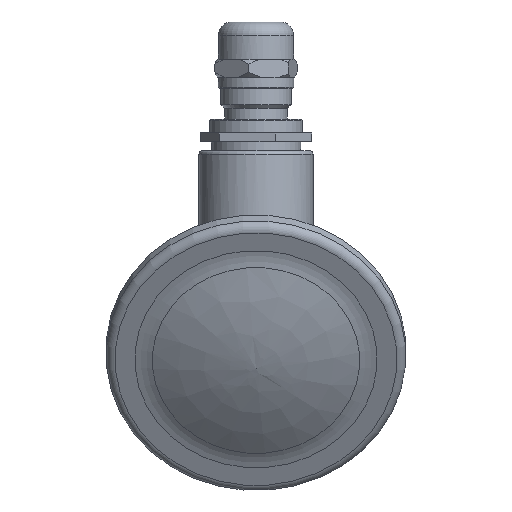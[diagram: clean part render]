
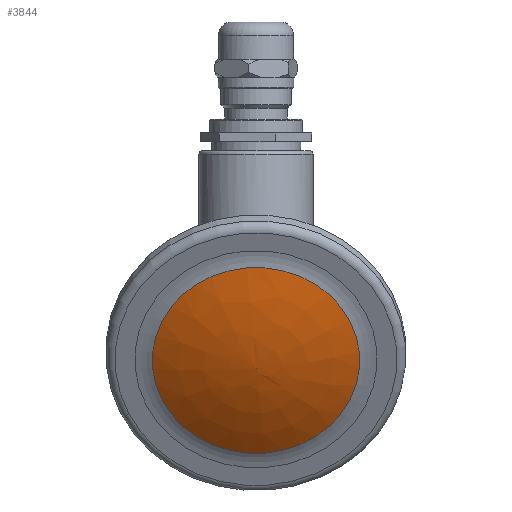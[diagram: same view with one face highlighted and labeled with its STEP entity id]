
A CAD part, left-side view. The second image highlights one B-rep face of the part: STEP entity #3844.
In plain terms, the highlighted free-form (B-spline) face has degree [3, 3] with [5, 19] control points.
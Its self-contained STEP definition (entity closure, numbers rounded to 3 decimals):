
#44=VERTEX_LOOP('',#1573);
#46=B_SPLINE_SURFACE_WITH_KNOTS('',3,3,((#6467,#6468,#6469,#6470,#6471,
#6472,#6473,#6474,#6475,#6476,#6477,#6478,#6479,#6480,#6481,#6482,#6483,
#6484,#6485),(#6486,#6487,#6488,#6489,#6490,#6491,#6492,#6493,#6494,#6495,
#6496,#6497,#6498,#6499,#6500,#6501,#6502,#6503,#6504),(#6505,#6506,#6507,
#6508,#6509,#6510,#6511,#6512,#6513,#6514,#6515,#6516,#6517,#6518,#6519,
#6520,#6521,#6522,#6523),(#6524,#6525,#6526,#6527,#6528,#6529,#6530,#6531,
#6532,#6533,#6534,#6535,#6536,#6537,#6538,#6539,#6540,#6541,#6542),(#6543,
#6544,#6545,#6546,#6547,#6548,#6549,#6550,#6551,#6552,#6553,#6554,#6555,
#6556,#6557,#6558,#6559,#6560,#6561)),.UNSPECIFIED.,.F.,.T.,.F.,(4,1,4),
(1,1,1,1,1,1,1,1,1,1,1,1,1,1,1,1,1,1,1,1,1,1,1),(0.,0.49,0.98),
(-1.178,-0.785,-0.393,0.,0.393,
0.785,1.178,1.571,1.963,2.356,
2.749,3.142,3.534,3.927,4.32,
4.712,5.105,5.498,5.89,6.283,
6.676,7.069,7.461),.UNSPECIFIED.);
#197=CIRCLE('',#4083,23.177);
#711=ORIENTED_EDGE('',*,*,#1269,.T.);
#1269=EDGE_CURVE('',#1574,#1574,#197,.T.);
#1573=VERTEX_POINT('',#6562);
#1574=VERTEX_POINT('',#6564);
#1975=EDGE_LOOP('',(#711));
#2233=FACE_BOUND('',#44,.T.);
#2234=FACE_BOUND('',#1975,.T.);
#3844=ADVANCED_FACE('',(#2233,#2234),#46,.F.);
#4083=AXIS2_PLACEMENT_3D('',#6563,#4555,#4556);
#4555=DIRECTION('',(-0.896,0.,-0.444));
#4556=DIRECTION('',(0.039,0.996,-0.078));
#6467=CARTESIAN_POINT('',(-42.546,0.,-5.716));
#6468=CARTESIAN_POINT('',(-42.546,0.,-5.716));
#6469=CARTESIAN_POINT('',(-42.546,0.,-5.716));
#6470=CARTESIAN_POINT('',(-42.546,0.,-5.716));
#6471=CARTESIAN_POINT('',(-42.546,0.,-5.716));
#6472=CARTESIAN_POINT('',(-42.546,0.,-5.716));
#6473=CARTESIAN_POINT('',(-42.546,0.,-5.716));
#6474=CARTESIAN_POINT('',(-42.546,0.,-5.716));
#6475=CARTESIAN_POINT('',(-42.546,0.,-5.716));
#6476=CARTESIAN_POINT('',(-42.546,0.,-5.716));
#6477=CARTESIAN_POINT('',(-42.546,0.,-5.716));
#6478=CARTESIAN_POINT('',(-42.546,0.,-5.716));
#6479=CARTESIAN_POINT('',(-42.546,0.,-5.716));
#6480=CARTESIAN_POINT('',(-42.546,0.,-5.716));
#6481=CARTESIAN_POINT('',(-42.546,0.,-5.716));
#6482=CARTESIAN_POINT('',(-42.546,0.,-5.716));
#6483=CARTESIAN_POINT('',(-42.546,0.,-5.716));
#6484=CARTESIAN_POINT('',(-42.546,0.,-5.716));
#6485=CARTESIAN_POINT('',(-42.546,0.,-5.716));
#6486=CARTESIAN_POINT('',(-44.026,1.861,-2.464));
#6487=CARTESIAN_POINT('',(-44.221,0.353,-2.07));
#6488=CARTESIAN_POINT('',(-44.145,-1.209,-2.222));
#6489=CARTESIAN_POINT('',(-43.81,-2.587,-2.899));
#6490=CARTESIAN_POINT('',(-43.267,-3.57,-3.997));
#6491=CARTESIAN_POINT('',(-42.598,-4.011,-5.348));
#6492=CARTESIAN_POINT('',(-41.905,-3.84,-6.748));
#6493=CARTESIAN_POINT('',(-41.294,-3.085,-7.982));
#6494=CARTESIAN_POINT('',(-40.857,-1.861,-8.864));
#6495=CARTESIAN_POINT('',(-40.662,-0.353,-9.258));
#6496=CARTESIAN_POINT('',(-40.738,1.209,-9.106));
#6497=CARTESIAN_POINT('',(-41.073,2.587,-8.429));
#6498=CARTESIAN_POINT('',(-41.616,3.57,-7.332));
#6499=CARTESIAN_POINT('',(-42.285,4.011,-5.98));
#6500=CARTESIAN_POINT('',(-42.978,3.84,-4.581));
#6501=CARTESIAN_POINT('',(-43.589,3.085,-3.346));
#6502=CARTESIAN_POINT('',(-44.026,1.861,-2.464));
#6503=CARTESIAN_POINT('',(-44.221,0.353,-2.07));
#6504=CARTESIAN_POINT('',(-44.145,-1.209,-2.222));
#6505=CARTESIAN_POINT('',(-46.461,5.595,4.326));
#6506=CARTESIAN_POINT('',(-47.049,1.06,5.513));
#6507=CARTESIAN_POINT('',(-46.821,-3.636,5.054));
#6508=CARTESIAN_POINT('',(-45.814,-7.778,3.019));
#6509=CARTESIAN_POINT('',(-44.18,-10.737,-0.282));
#6510=CARTESIAN_POINT('',(-42.168,-12.061,-4.346));
#6511=CARTESIAN_POINT('',(-40.085,-11.548,-8.554));
#6512=CARTESIAN_POINT('',(-38.247,-9.278,-12.267));
#6513=CARTESIAN_POINT('',(-36.934,-5.595,-14.918));
#6514=CARTESIAN_POINT('',(-36.347,-1.06,-16.105));
#6515=CARTESIAN_POINT('',(-36.574,3.636,-15.646));
#6516=CARTESIAN_POINT('',(-37.582,7.778,-13.611));
#6517=CARTESIAN_POINT('',(-39.216,10.737,-10.31));
#6518=CARTESIAN_POINT('',(-41.227,12.061,-6.246));
#6519=CARTESIAN_POINT('',(-43.311,11.548,-2.038));
#6520=CARTESIAN_POINT('',(-45.149,9.278,1.675));
#6521=CARTESIAN_POINT('',(-46.461,5.595,4.326));
#6522=CARTESIAN_POINT('',(-47.049,1.06,5.513));
#6523=CARTESIAN_POINT('',(-46.821,-3.636,5.054));
#6524=CARTESIAN_POINT('',(-47.756,9.229,11.465));
#6525=CARTESIAN_POINT('',(-48.725,1.749,13.422));
#6526=CARTESIAN_POINT('',(-48.35,-5.997,12.665));
#6527=CARTESIAN_POINT('',(-46.689,-12.83,9.309));
#6528=CARTESIAN_POINT('',(-43.994,-17.709,3.865));
#6529=CARTESIAN_POINT('',(-40.675,-19.893,-2.838));
#6530=CARTESIAN_POINT('',(-37.239,-19.048,-9.78));
#6531=CARTESIAN_POINT('',(-34.207,-15.303,-15.903));
#6532=CARTESIAN_POINT('',(-32.042,-9.229,-20.277));
#6533=CARTESIAN_POINT('',(-31.073,-1.749,-22.233));
#6534=CARTESIAN_POINT('',(-31.448,5.997,-21.476));
#6535=CARTESIAN_POINT('',(-33.11,12.83,-18.12));
#6536=CARTESIAN_POINT('',(-35.805,17.709,-12.676));
#6537=CARTESIAN_POINT('',(-39.123,19.893,-5.973));
#6538=CARTESIAN_POINT('',(-42.56,19.048,0.969));
#6539=CARTESIAN_POINT('',(-45.591,15.303,7.092));
#6540=CARTESIAN_POINT('',(-47.756,9.229,11.465));
#6541=CARTESIAN_POINT('',(-48.725,1.749,13.422));
#6542=CARTESIAN_POINT('',(-48.35,-5.997,12.665));
#6543=CARTESIAN_POINT('',(-48.11,10.99,15.061));
#6544=CARTESIAN_POINT('',(-49.264,2.083,17.391));
#6545=CARTESIAN_POINT('',(-48.817,-7.141,16.489));
#6546=CARTESIAN_POINT('',(-46.839,-15.278,12.493));
#6547=CARTESIAN_POINT('',(-43.63,-21.088,6.01));
#6548=CARTESIAN_POINT('',(-39.678,-23.689,-1.972));
#6549=CARTESIAN_POINT('',(-35.586,-22.683,-10.238));
#6550=CARTESIAN_POINT('',(-31.976,-18.223,-17.53));
#6551=CARTESIAN_POINT('',(-29.398,-10.99,-22.738));
#6552=CARTESIAN_POINT('',(-28.244,-2.083,-25.068));
#6553=CARTESIAN_POINT('',(-28.691,7.141,-24.167));
#6554=CARTESIAN_POINT('',(-30.669,15.278,-20.17));
#6555=CARTESIAN_POINT('',(-33.878,21.088,-13.688));
#6556=CARTESIAN_POINT('',(-37.83,23.689,-5.705));
#6557=CARTESIAN_POINT('',(-41.922,22.683,2.561));
#6558=CARTESIAN_POINT('',(-45.532,18.223,9.853));
#6559=CARTESIAN_POINT('',(-48.11,10.99,15.061));
#6560=CARTESIAN_POINT('',(-49.264,2.083,17.391));
#6561=CARTESIAN_POINT('',(-48.817,-7.141,16.489));
#6562=CARTESIAN_POINT('',(-42.546,0.,-5.716));
#6563=CARTESIAN_POINT('',(-38.754,0.,-3.839));
#6564=CARTESIAN_POINT('',(-37.853,23.088,-5.658));
